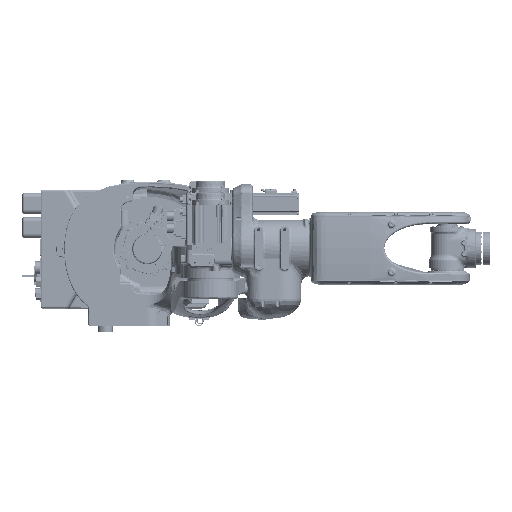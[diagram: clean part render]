
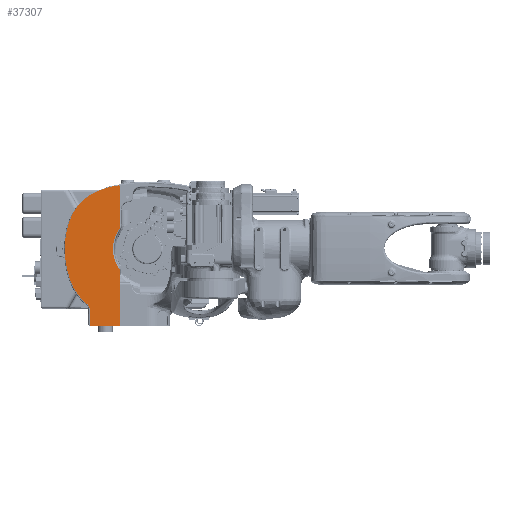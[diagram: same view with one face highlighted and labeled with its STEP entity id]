
A CAD part, top view. The second image highlights one B-rep face of the part: STEP entity #37307.
In plain terms, the highlighted planar face has unit normal (0, 0, 1).
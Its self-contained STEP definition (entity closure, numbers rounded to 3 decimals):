
#8265 = ORIENTED_EDGE ( 'NONE', *, *, #344457, .T. ) ;
#10212 = VERTEX_POINT ( 'NONE', #30230 ) ;
#24354 = EDGE_CURVE ( 'NONE', #199146, #172622, #433945, .T. ) ;
#30230 = CARTESIAN_POINT ( 'NONE',  ( -221.709, 20.798, -29.191 ) ) ;
#30914 = LINE ( 'NONE', #324740, #162559 ) ;
#33196 = DIRECTION ( 'NONE',  ( 0., -1., 0. ) ) ;
#35689 = CARTESIAN_POINT ( 'NONE',  ( -371.709, 78.417, -29.191 ) ) ;
#37307 = ADVANCED_FACE ( 'NONE', ( #160483 ), #389644, .T. ) ;
#42883 = DIRECTION ( 'NONE',  ( 0., 0., 1. ) ) ;
#52018 = ORIENTED_EDGE ( 'NONE', *, *, #327403, .T. ) ;
#65647 = ORIENTED_EDGE ( 'NONE', *, *, #613014, .T. ) ;
#69427 = DIRECTION ( 'NONE',  ( 0., 0., 1. ) ) ;
#78165 = ORIENTED_EDGE ( 'NONE', *, *, #156214, .T. ) ;
#81113 = CARTESIAN_POINT ( 'NONE',  ( -299.709, -129.583, -29.191 ) ) ;
#83130 = ORIENTED_EDGE ( 'NONE', *, *, #253368, .T. ) ;
#84382 = VERTEX_POINT ( 'NONE', #35689 ) ;
#88072 = EDGE_CURVE ( 'NONE', #431802, #182633, #125447, .T. ) ;
#91877 = CARTESIAN_POINT ( 'NONE',  ( -226.709, -124.583, -29.191 ) ) ;
#93289 = CARTESIAN_POINT ( 'NONE',  ( -227.422, 249.916, -29.191 ) ) ;
#97990 = CARTESIAN_POINT ( 'NONE',  ( -358.74, 154.388, -29.191 ) ) ;
#113486 = DIRECTION ( 'NONE',  ( 0., 0., 1. ) ) ;
#125407 = AXIS2_PLACEMENT_3D ( 'NONE', #439610, #615248, #145262 ) ;
#125447 = CIRCLE ( 'NONE', #639294, 5. ) ;
#126153 = AXIS2_PLACEMENT_3D ( 'NONE', #338417, #238911, #344806 ) ;
#127791 = VERTEX_POINT ( 'NONE', #81113 ) ;
#145262 = DIRECTION ( 'NONE',  ( 0., -1., 0. ) ) ;
#145879 = EDGE_CURVE ( 'NONE', #84382, #609578, #392574, .T. ) ;
#156214 = EDGE_CURVE ( 'NONE', #602085, #214163, #481442, .T. ) ;
#160483 = FACE_OUTER_BOUND ( 'NONE', #384116, .T. ) ;
#162559 = VECTOR ( 'NONE', #577367, 1000. ) ;
#165226 = DIRECTION ( 'NONE',  ( 0., -1., 0. ) ) ;
#166729 = CIRCLE ( 'NONE', #125407, 93. ) ;
#172622 = VERTEX_POINT ( 'NONE', #471510 ) ;
#182633 = VERTEX_POINT ( 'NONE', #511804 ) ;
#183058 = AXIS2_PLACEMENT_3D ( 'NONE', #539872, #587403, #589565 ) ;
#184581 = CARTESIAN_POINT ( 'NONE',  ( -217.447, 43.857, -29.191 ) ) ;
#186398 = DIRECTION ( 'NONE',  ( 0., 0., 1. ) ) ;
#193170 = VECTOR ( 'NONE', #616931, 1000. ) ;
#199146 = VERTEX_POINT ( 'NONE', #576282 ) ;
#200638 = LINE ( 'NONE', #567356, #193170 ) ;
#202558 = DIRECTION ( 'NONE',  ( 0., -1., 0. ) ) ;
#209142 = LINE ( 'NONE', #487843, #371738 ) ;
#212097 = VERTEX_POINT ( 'NONE', #511737 ) ;
#214163 = VERTEX_POINT ( 'NONE', #97990 ) ;
#232603 = DIRECTION ( 'NONE',  ( 0., 0., 1. ) ) ;
#233644 = CARTESIAN_POINT ( 'NONE',  ( -230.442, 109.27, -29.191 ) ) ;
#238810 = EDGE_CURVE ( 'NONE', #182633, #445817, #407116, .T. ) ;
#238911 = DIRECTION ( 'NONE',  ( 0., 0., -1. ) ) ;
#247039 = AXIS2_PLACEMENT_3D ( 'NONE', #184581, #634083, #33196 ) ;
#253368 = EDGE_CURVE ( 'NONE', #445817, #602085, #284725, .T. ) ;
#254529 = AXIS2_PLACEMENT_3D ( 'NONE', #493603, #292781, #543284 ) ;
#255189 = ORIENTED_EDGE ( 'NONE', *, *, #259458, .T. ) ;
#259458 = EDGE_CURVE ( 'NONE', #609578, #265252, #351615, .T. ) ;
#263626 = ORIENTED_EDGE ( 'NONE', *, *, #24354, .T. ) ;
#265252 = VERTEX_POINT ( 'NONE', #631224 ) ;
#272871 = CARTESIAN_POINT ( 'NONE',  ( -221.709, 136.037, -29.191 ) ) ;
#275918 = VECTOR ( 'NONE', #284039, 1000. ) ;
#284039 = DIRECTION ( 'NONE',  ( 1., 0., 0. ) ) ;
#284725 = CIRCLE ( 'NONE', #351109, 233. ) ;
#285041 = CIRCLE ( 'NONE', #126153, 18. ) ;
#286656 = ORIENTED_EDGE ( 'NONE', *, *, #597958, .T. ) ;
#292781 = DIRECTION ( 'NONE',  ( 0., 0., 1. ) ) ;
#293108 = ORIENTED_EDGE ( 'NONE', *, *, #460439, .T. ) ;
#324740 = CARTESIAN_POINT ( 'NONE',  ( -221.709, 278.417, -29.191 ) ) ;
#327403 = EDGE_CURVE ( 'NONE', #550956, #212097, #200638, .T. ) ;
#337444 = DIRECTION ( 'NONE',  ( 0., -1., 0. ) ) ;
#338417 = CARTESIAN_POINT ( 'NONE',  ( -322.709, -84.501, -29.191 ) ) ;
#343572 = CARTESIAN_POINT ( 'NONE',  ( -226.709, 244.967, -29.191 ) ) ;
#344457 = EDGE_CURVE ( 'NONE', #127791, #199146, #592697, .T. ) ;
#344806 = DIRECTION ( 'NONE',  ( 0., -1., 0. ) ) ;
#351109 = AXIS2_PLACEMENT_3D ( 'NONE', #360035, #113486, #165226 ) ;
#351615 = CIRCLE ( 'NONE', #247039, 148. ) ;
#360035 = CARTESIAN_POINT ( 'NONE',  ( -194.194, 19.298, -29.191 ) ) ;
#363871 = EDGE_CURVE ( 'NONE', #172622, #10212, #30914, .T. ) ;
#371738 = VECTOR ( 'NONE', #587148, 1000. ) ;
#374257 = DIRECTION ( 'NONE',  ( 0., -1., 0. ) ) ;
#384116 = EDGE_LOOP ( 'NONE', ( #293108, #8265, #263626, #639455, #395708, #286656, #434243, #560933, #83130, #78165, #65647, #455578, #255189, #584956, #52018 ) ) ;
#389644 = PLANE ( 'NONE',  #391565 ) ;
#391565 = AXIS2_PLACEMENT_3D ( 'NONE', #482561, #186398, #484741 ) ;
#392574 = CIRCLE ( 'NONE', #410668, 246.5 ) ;
#395708 = ORIENTED_EDGE ( 'NONE', *, *, #454094, .T. ) ;
#407116 = CIRCLE ( 'NONE', #454262, 5. ) ;
#410668 = AXIS2_PLACEMENT_3D ( 'NONE', #595929, #444719, #202558 ) ;
#417596 = CARTESIAN_POINT ( 'NONE',  ( -226.709, 244.967, -29.191 ) ) ;
#422424 = CIRCLE ( 'NONE', #254529, 5. ) ;
#431802 = VERTEX_POINT ( 'NONE', #595681 ) ;
#433945 = CIRCLE ( 'NONE', #619417, 5. ) ;
#434243 = ORIENTED_EDGE ( 'NONE', *, *, #88072, .T. ) ;
#437831 = DIRECTION ( 'NONE',  ( 0., -1., 0. ) ) ;
#439610 = CARTESIAN_POINT ( 'NONE',  ( -148.709, 78.417, -29.191 ) ) ;
#444719 = DIRECTION ( 'NONE',  ( 0., 0., 1. ) ) ;
#445817 = VERTEX_POINT ( 'NONE', #93289 ) ;
#454094 = EDGE_CURVE ( 'NONE', #10212, #562865, #166729, .T. ) ;
#454262 = AXIS2_PLACEMENT_3D ( 'NONE', #343572, #42883, #637368 ) ;
#455578 = ORIENTED_EDGE ( 'NONE', *, *, #145879, .T. ) ;
#460439 = EDGE_CURVE ( 'NONE', #212097, #127791, #422424, .T. ) ;
#471510 = CARTESIAN_POINT ( 'NONE',  ( -221.709, -124.583, -29.191 ) ) ;
#481442 = CIRCLE ( 'NONE', #483429, 136. ) ;
#482561 = CARTESIAN_POINT ( 'NONE',  ( -148.709, 78.417, -29.191 ) ) ;
#483429 = AXIS2_PLACEMENT_3D ( 'NONE', #233644, #633333, #337444 ) ;
#484741 = DIRECTION ( 'NONE',  ( 0., -1., 0. ) ) ;
#487843 = CARTESIAN_POINT ( 'NONE',  ( -221.709, 278.417, -29.191 ) ) ;
#493484 = CARTESIAN_POINT ( 'NONE',  ( -281.265, 235.417, -29.191 ) ) ;
#493603 = CARTESIAN_POINT ( 'NONE',  ( -299.709, -124.583, -29.191 ) ) ;
#510272 = CARTESIAN_POINT ( 'NONE',  ( -304.709, -84.501, -29.191 ) ) ;
#511737 = CARTESIAN_POINT ( 'NONE',  ( -304.709, -124.583, -29.191 ) ) ;
#511804 = CARTESIAN_POINT ( 'NONE',  ( -226.709, 249.967, -29.191 ) ) ;
#530573 = CARTESIAN_POINT ( 'NONE',  ( -356.039, -8.07, -29.191 ) ) ;
#539872 = CARTESIAN_POINT ( 'NONE',  ( -142.709, 78.417, -29.191 ) ) ;
#543284 = DIRECTION ( 'NONE',  ( 0., -1., 0. ) ) ;
#550956 = VERTEX_POINT ( 'NONE', #510272 ) ;
#560933 = ORIENTED_EDGE ( 'NONE', *, *, #238810, .T. ) ;
#562865 = VERTEX_POINT ( 'NONE', #272871 ) ;
#567356 = CARTESIAN_POINT ( 'NONE',  ( -304.709, 78.417, -29.191 ) ) ;
#576282 = CARTESIAN_POINT ( 'NONE',  ( -226.709, -129.583, -29.191 ) ) ;
#577367 = DIRECTION ( 'NONE',  ( 0., 1., 0. ) ) ;
#579959 = CARTESIAN_POINT ( 'NONE',  ( -148.709, -129.583, -29.191 ) ) ;
#584956 = ORIENTED_EDGE ( 'NONE', *, *, #614783, .T. ) ;
#587148 = DIRECTION ( 'NONE',  ( 0., 1., 0. ) ) ;
#587403 = DIRECTION ( 'NONE',  ( 0., 0., 1. ) ) ;
#589565 = DIRECTION ( 'NONE',  ( 0., -1., 0. ) ) ;
#592697 = LINE ( 'NONE', #579959, #275918 ) ;
#595681 = CARTESIAN_POINT ( 'NONE',  ( -221.709, 244.967, -29.191 ) ) ;
#595929 = CARTESIAN_POINT ( 'NONE',  ( -125.209, 78.417, -29.191 ) ) ;
#597958 = EDGE_CURVE ( 'NONE', #562865, #431802, #209142, .T. ) ;
#602085 = VERTEX_POINT ( 'NONE', #493484 ) ;
#609578 = VERTEX_POINT ( 'NONE', #530573 ) ;
#613014 = EDGE_CURVE ( 'NONE', #214163, #84382, #635118, .T. ) ;
#614783 = EDGE_CURVE ( 'NONE', #265252, #550956, #285041, .T. ) ;
#615248 = DIRECTION ( 'NONE',  ( 0., 0., -1. ) ) ;
#616931 = DIRECTION ( 'NONE',  ( 0., -1., 0. ) ) ;
#619417 = AXIS2_PLACEMENT_3D ( 'NONE', #91877, #232603, #437831 ) ;
#631224 = CARTESIAN_POINT ( 'NONE',  ( -311.295, -70.583, -29.191 ) ) ;
#633333 = DIRECTION ( 'NONE',  ( 0., 0., 1. ) ) ;
#634083 = DIRECTION ( 'NONE',  ( 0., 0., 1. ) ) ;
#635118 = CIRCLE ( 'NONE', #183058, 229. ) ;
#637368 = DIRECTION ( 'NONE',  ( 0., -1., 0. ) ) ;
#639294 = AXIS2_PLACEMENT_3D ( 'NONE', #417596, #69427, #374257 ) ;
#639455 = ORIENTED_EDGE ( 'NONE', *, *, #363871, .T. ) ;
